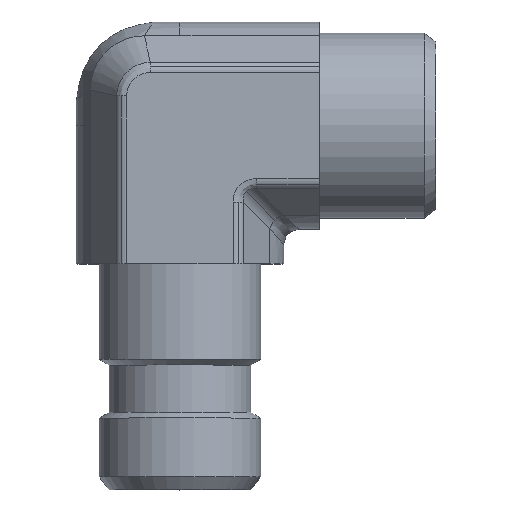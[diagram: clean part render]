
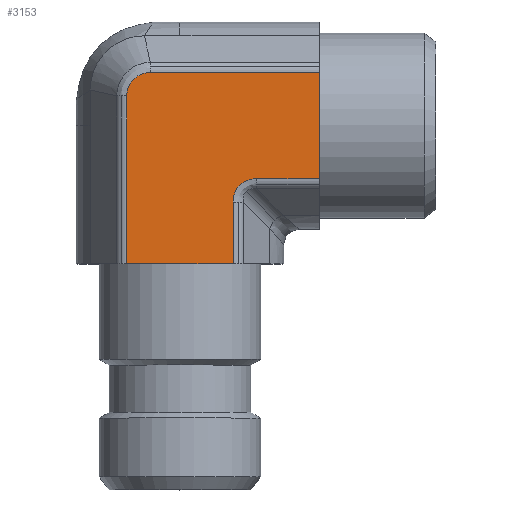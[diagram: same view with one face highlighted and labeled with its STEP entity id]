
A CAD part, top view. The second image highlights one B-rep face of the part: STEP entity #3153.
In plain terms, the highlighted planar face has unit normal (0, 0, 1) as drawn and (0, -1, 0) by its records, which use the part's own axes.
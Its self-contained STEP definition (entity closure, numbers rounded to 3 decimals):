
#319=CARTESIAN_POINT('',(5.387,-13.375,6.856));
#320=VERTEX_POINT('',#319);
#328=CARTESIAN_POINT('',(13.35,-13.375,6.856));
#329=VERTEX_POINT('',#328);
#330=CARTESIAN_POINT('',(5.387,-13.375,6.856));
#331=DIRECTION('',(1.0,0.0,0.0));
#332=VECTOR('',#331,7.963);
#333=LINE('',#330,#332);
#334=EDGE_CURVE('',#320,#329,#333,.T.);
#443=CARTESIAN_POINT('',(-11.356,-13.375,-3.819));
#444=VERTEX_POINT('',#443);
#452=CARTESIAN_POINT('',(-11.356,-13.375,18.0));
#453=VERTEX_POINT('',#452);
#454=CARTESIAN_POINT('',(-11.356,-13.375,-3.819));
#455=DIRECTION('',(0.0,0.0,1.0));
#456=VECTOR('',#455,21.819);
#457=LINE('',#454,#456);
#458=EDGE_CURVE('',#444,#453,#457,.T.);
#1967=CARTESIAN_POINT('',(13.35,-13.375,-6.856));
#1968=VERTEX_POINT('',#1967);
#1969=CARTESIAN_POINT('',(13.35,-13.375,-6.856));
#1970=DIRECTION('',(0.0,0.0,1.0));
#1971=VECTOR('',#1970,13.712);
#1972=LINE('',#1969,#1971);
#1973=EDGE_CURVE('',#1968,#329,#1972,.T.);
#2268=CARTESIAN_POINT('',(2.356,-13.375,18.0));
#2269=VERTEX_POINT('',#2268);
#2270=CARTESIAN_POINT('',(2.356,-13.375,18.0));
#2271=DIRECTION('',(-1.0,0.0,0.0));
#2272=VECTOR('',#2271,13.712);
#2273=LINE('',#2270,#2272);
#2274=EDGE_CURVE('',#2269,#453,#2273,.T.);
#2789=CARTESIAN_POINT('',(-8.319,-13.375,-6.856));
#2790=VERTEX_POINT('',#2789);
#2798=CARTESIAN_POINT('',(-11.356,-13.375,-3.819));
#2799=CARTESIAN_POINT('',(-11.356,-13.375,-4.016));
#2800=CARTESIAN_POINT('',(-11.336,-13.375,-4.216));
#2801=CARTESIAN_POINT('',(-11.235,-13.375,-4.725));
#2802=CARTESIAN_POINT('',(-11.123,-13.375,-5.025));
#2803=CARTESIAN_POINT('',(-10.717,-13.375,-5.748));
#2804=CARTESIAN_POINT('',(-10.355,-13.375,-6.127));
#2805=CARTESIAN_POINT('',(-9.441,-13.375,-6.697));
#2806=CARTESIAN_POINT('',(-8.88,-13.375,-6.856));
#2807=CARTESIAN_POINT('',(-8.319,-13.375,-6.856));
#2808=B_SPLINE_CURVE_WITH_KNOTS('',3,(#2798,#2799,#2800,#2801,#2802,#2803,#2804,#2805,#2806,#2807),.UNSPECIFIED.,.F.,.U.,(4,2,2,2,4),(-4.746,-4.152,-3.203,-1.685,0.0),.UNSPECIFIED.);
#2809=EDGE_CURVE('',#2790,#444,#2808,.F.);
#2836=CARTESIAN_POINT('',(13.35,-13.375,-6.856));
#2837=DIRECTION('',(-1.0,0.0,0.0));
#2838=VECTOR('',#2837,21.669);
#2839=LINE('',#2836,#2838);
#2840=EDGE_CURVE('',#1968,#2790,#2839,.T.);
#2972=CARTESIAN_POINT('',(2.356,-13.375,9.887));
#2973=VERTEX_POINT('',#2972);
#2974=CARTESIAN_POINT('',(2.356,-13.375,18.0));
#2975=DIRECTION('',(0.0,0.0,-1.0));
#2976=VECTOR('',#2975,8.113);
#2977=LINE('',#2974,#2976);
#2978=EDGE_CURVE('',#2269,#2973,#2977,.T.);
#3111=CARTESIAN_POINT('',(6.397,-13.375,10.897));
#3112=DIRECTION('',(0.,-1.0,0.));
#3113=DIRECTION('',(-0.707,0.,-0.707));
#3114=AXIS2_PLACEMENT_3D('',#3111,#3112,#3113);
#3115=ELLIPSE('',#3114,4.518,3.5);
#3116=EDGE_CURVE('',#2973,#320,#3115,.T.);
#3138=CARTESIAN_POINT('',(-4.5,-13.375,-3.175));
#3139=DIRECTION('',(0.0,-1.0,0.0));
#3140=DIRECTION('',(0.0,0.0,-1.0));
#3141=AXIS2_PLACEMENT_3D('',#3138,#3139,#3140);
#3142=PLANE('',#3141);
#3143=ORIENTED_EDGE('',*,*,#1973,.T.);
#3144=ORIENTED_EDGE('',*,*,#334,.F.);
#3145=ORIENTED_EDGE('',*,*,#3116,.F.);
#3146=ORIENTED_EDGE('',*,*,#2978,.F.);
#3147=ORIENTED_EDGE('',*,*,#2274,.T.);
#3148=ORIENTED_EDGE('',*,*,#458,.F.);
#3149=ORIENTED_EDGE('',*,*,#2809,.F.);
#3150=ORIENTED_EDGE('',*,*,#2840,.F.);
#3151=EDGE_LOOP('',(#3143,#3144,#3145,#3146,#3147,#3148,#3149,#3150));
#3152=FACE_OUTER_BOUND('',#3151,.T.);
#3153=ADVANCED_FACE('',(#3152),#3142,.T.);
